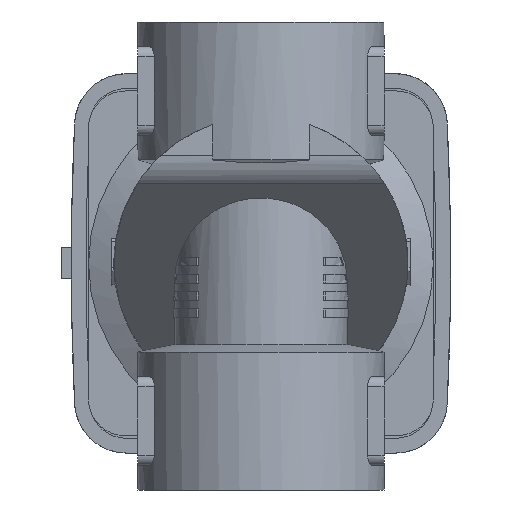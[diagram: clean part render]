
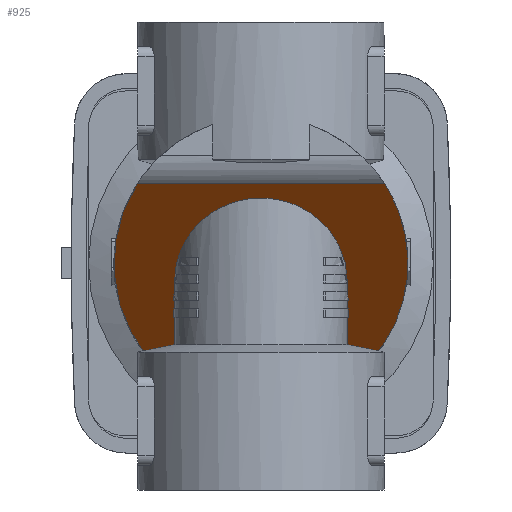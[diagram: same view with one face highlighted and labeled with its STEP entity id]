
A CAD part, front view. The second image highlights one B-rep face of the part: STEP entity #925.
In plain terms, the highlighted planar face has unit normal (0, -0.69, -0.724) as drawn and (0.724, -0.69, 0) by its records, which use the part's own axes.
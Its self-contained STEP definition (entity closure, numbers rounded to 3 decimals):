
#925 = ADVANCED_FACE( '', ( #1945 ), #1946, .T. );
#1945 = FACE_OUTER_BOUND( '', #3051, .T. );
#1946 = PLANE( '', #3052 );
#3051 = EDGE_LOOP( '', ( #5568, #5569, #5570, #5571, #5572, #5573, #5574, #5575, #5576, #5577, #5578, #5579, #5580, #5581 ) );
#3052 = AXIS2_PLACEMENT_3D( '', #5582, #5583, #5584 );
#5568 = ORIENTED_EDGE( '', *, *, #6956, .F. );
#5569 = ORIENTED_EDGE( '', *, *, #7636, .F. );
#5570 = ORIENTED_EDGE( '', *, *, #6842, .F. );
#5571 = ORIENTED_EDGE( '', *, *, #7637, .F. );
#5572 = ORIENTED_EDGE( '', *, *, #7424, .F. );
#5573 = ORIENTED_EDGE( '', *, *, #7557, .T. );
#5574 = ORIENTED_EDGE( '', *, *, #7638, .F. );
#5575 = ORIENTED_EDGE( '', *, *, #6743, .F. );
#5576 = ORIENTED_EDGE( '', *, *, #7639, .F. );
#5577 = ORIENTED_EDGE( '', *, *, #7640, .F. );
#5578 = ORIENTED_EDGE( '', *, *, #6954, .F. );
#5579 = ORIENTED_EDGE( '', *, *, #7519, .F. );
#5580 = ORIENTED_EDGE( '', *, *, #7288, .T. );
#5581 = ORIENTED_EDGE( '', *, *, #7407, .F. );
#5582 = CARTESIAN_POINT( '', ( 23., 20.5, 70. ) );
#5583 = DIRECTION( '', ( 0.724, -0.69, 0. ) );
#5584 = DIRECTION( '', ( 0.69, 0.724, 0. ) );
#6743 = EDGE_CURVE( '', #8127, #8130, #8131, .T. );
#6842 = EDGE_CURVE( '', #8302, #8304, #8305, .T. );
#6954 = EDGE_CURVE( '', #8487, #8489, #8490, .T. );
#6956 = EDGE_CURVE( '', #8491, #8493, #8494, .T. );
#7288 = EDGE_CURVE( '', #9013, #9011, #9014, .F. );
#7407 = EDGE_CURVE( '', #8493, #9011, #9182, .T. );
#7424 = EDGE_CURVE( '', #9203, #9205, #9206, .F. );
#7519 = EDGE_CURVE( '', #9013, #8487, #9332, .T. );
#7557 = EDGE_CURVE( '', #9203, #9376, #9378, .T. );
#7636 = EDGE_CURVE( '', #8304, #8491, #9474, .T. );
#7637 = EDGE_CURVE( '', #9205, #8302, #9475, .T. );
#7638 = EDGE_CURVE( '', #8130, #9376, #9476, .F. );
#7639 = EDGE_CURVE( '', #9477, #8127, #9478, .T. );
#7640 = EDGE_CURVE( '', #8489, #9477, #9479, .T. );
#8127 = VERTEX_POINT( '', #10242 );
#8130 = VERTEX_POINT( '', #10246 );
#8131 = LINE( '', #10247, #10248 );
#8302 = VERTEX_POINT( '', #10507 );
#8304 = VERTEX_POINT( '', #10510 );
#8305 = LINE( '', #10511, #10512 );
#8487 = VERTEX_POINT( '', #10767 );
#8489 = VERTEX_POINT( '', #10776 );
#8490 = B_SPLINE_CURVE_WITH_KNOTS( '', 3, ( #10777, #10778, #10779, #10780 ), .UNSPECIFIED., .F., .F., ( 4, 4 ), ( 0.007, 0.009 ), .UNSPECIFIED. );
#8491 = VERTEX_POINT( '', #10781 );
#8493 = VERTEX_POINT( '', #10783 );
#8494 = B_SPLINE_CURVE_WITH_KNOTS( '', 3, ( #10784, #10785, #10786, #10787 ), .UNSPECIFIED., .F., .F., ( 4, 4 ), ( 0., 0.002 ), .UNSPECIFIED. );
#9011 = VERTEX_POINT( '', #11566 );
#9013 = VERTEX_POINT( '', #11569 );
#9014 = ELLIPSE( '', #11570, 24.186, 17.5 );
#9182 = LINE( '', #11846, #11847 );
#9203 = VERTEX_POINT( '', #11887 );
#9205 = VERTEX_POINT( '', #11898 );
#9206 = ELLIPSE( '', #11899, 43.243, 29.85 );
#9332 = LINE( '', #12137, #12138 );
#9376 = VERTEX_POINT( '', #12199 );
#9378 = LINE( '', #12210, #12211 );
#9474 = ELLIPSE( '', #12355, 34.552, 25. );
#9475 = LINE( '', #12356, #12357 );
#9476 = ELLIPSE( '', #12358, 43.243, 29.85 );
#9477 = VERTEX_POINT( '', #12359 );
#9478 = LINE( '', #12360, #12361 );
#9479 = ELLIPSE( '', #12362, 34.552, 25. );
#10242 = CARTESIAN_POINT( '', ( 23., 20.5, -17.5 ) );
#10246 = CARTESIAN_POINT( '', ( 23., 20.5, -19.027 ) );
#10247 = CARTESIAN_POINT( '', ( 23., 20.5, 70. ) );
#10248 = VECTOR( '', #12871, 1000. );
#10507 = CARTESIAN_POINT( '', ( 23., 20.5, 17.5 ) );
#10510 = CARTESIAN_POINT( '', ( 20.475, 17.854, 17.5 ) );
#10511 = CARTESIAN_POINT( '', ( 23., 20.5, 17.5 ) );
#10512 = VECTOR( '', #12993, 1000. );
#10767 = CARTESIAN_POINT( '', ( 17.587, 14.826, -17.5 ) );
#10776 = CARTESIAN_POINT( '', ( 18., 15.259, -19.803 ) );
#10777 = CARTESIAN_POINT( '', ( 17.587, 14.826, -17.5 ) );
#10778 = CARTESIAN_POINT( '', ( 17.723, 14.969, -18.268 ) );
#10779 = CARTESIAN_POINT( '', ( 17.861, 15.113, -19.036 ) );
#10780 = CARTESIAN_POINT( '', ( 18., 15.259, -19.803 ) );
#10781 = CARTESIAN_POINT( '', ( 18., 15.259, 19.803 ) );
#10783 = CARTESIAN_POINT( '', ( 17.587, 14.826, 17.5 ) );
#10784 = CARTESIAN_POINT( '', ( 18., 15.259, 19.803 ) );
#10785 = CARTESIAN_POINT( '', ( 17.861, 15.113, 19.036 ) );
#10786 = CARTESIAN_POINT( '', ( 17.723, 14.969, 18.268 ) );
#10787 = CARTESIAN_POINT( '', ( 17.587, 14.826, 17.5 ) );
#11566 = CARTESIAN_POINT( '', ( 3.443, 0., 17.5 ) );
#11569 = CARTESIAN_POINT( '', ( 3.443, 0., -17.5 ) );
#11570 = AXIS2_PLACEMENT_3D( '', #13518, #13519, #13520 );
#11846 = CARTESIAN_POINT( '', ( 23., 20.5, 17.5 ) );
#11847 = VECTOR( '', #13643, 1000. );
#11887 = CARTESIAN_POINT( '', ( -16.136, -20.522, 25.113 ) );
#11898 = CARTESIAN_POINT( '', ( 23., 20.5, 19.027 ) );
#11899 = AXIS2_PLACEMENT_3D( '', #13655, #13656, #13657 );
#12137 = CARTESIAN_POINT( '', ( 23., 20.5, -17.5 ) );
#12138 = VECTOR( '', #13757, 1000. );
#12199 = CARTESIAN_POINT( '', ( -16.136, -20.522, -25.113 ) );
#12210 = CARTESIAN_POINT( '', ( -16.136, -20.522, 70. ) );
#12211 = VECTOR( '', #13790, 1000. );
#12355 = AXIS2_PLACEMENT_3D( '', #13866, #13867, #13868 );
#12356 = CARTESIAN_POINT( '', ( 23., 20.5, 70. ) );
#12357 = VECTOR( '', #13869, 1000. );
#12358 = AXIS2_PLACEMENT_3D( '', #13870, #13871, #13872 );
#12359 = CARTESIAN_POINT( '', ( 20.475, 17.854, -17.5 ) );
#12360 = CARTESIAN_POINT( '', ( 23., 20.5, -17.5 ) );
#12361 = VECTOR( '', #13873, 1000. );
#12362 = AXIS2_PLACEMENT_3D( '', #13874, #13875, #13876 );
#12871 = DIRECTION( '', ( 0., 0., -1. ) );
#12993 = DIRECTION( '', ( -0.69, -0.724, 0. ) );
#13518 = CARTESIAN_POINT( '', ( 3.443, 0., 0. ) );
#13519 = DIRECTION( '', ( 0.724, -0.69, 0. ) );
#13520 = DIRECTION( '', ( -0.69, -0.724, 0. ) );
#13643 = DIRECTION( '', ( -0.69, -0.724, 0. ) );
#13655 = CARTESIAN_POINT( '', ( 0., -3.608, 0. ) );
#13656 = DIRECTION( '', ( 0.724, -0.69, 0. ) );
#13657 = DIRECTION( '', ( 0.69, 0.724, 0. ) );
#13757 = DIRECTION( '', ( 0.69, 0.724, 0. ) );
#13790 = DIRECTION( '', ( 0., 0., -1. ) );
#13866 = CARTESIAN_POINT( '', ( 3.443, 0., 0. ) );
#13867 = DIRECTION( '', ( 0.724, -0.69, 0. ) );
#13868 = DIRECTION( '', ( 0.69, 0.724, 0. ) );
#13869 = DIRECTION( '', ( 0., 0., -1. ) );
#13870 = CARTESIAN_POINT( '', ( 0., -3.608, 0. ) );
#13871 = DIRECTION( '', ( 0.724, -0.69, 0. ) );
#13872 = DIRECTION( '', ( 0.69, 0.724, 0. ) );
#13873 = DIRECTION( '', ( 0.69, 0.724, 0. ) );
#13874 = CARTESIAN_POINT( '', ( 3.443, 0., 0. ) );
#13875 = DIRECTION( '', ( 0.724, -0.69, 0. ) );
#13876 = DIRECTION( '', ( 0.69, 0.724, 0. ) );
